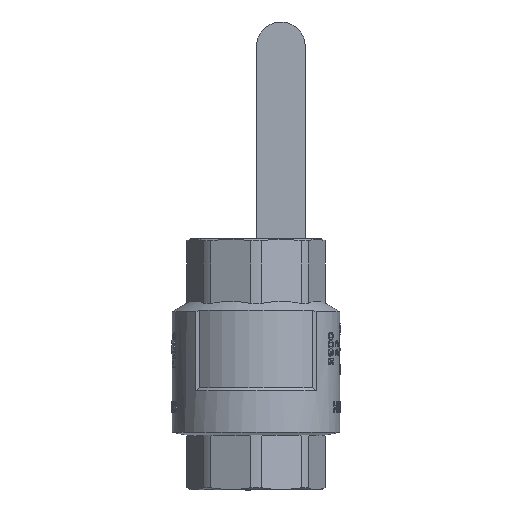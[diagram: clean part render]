
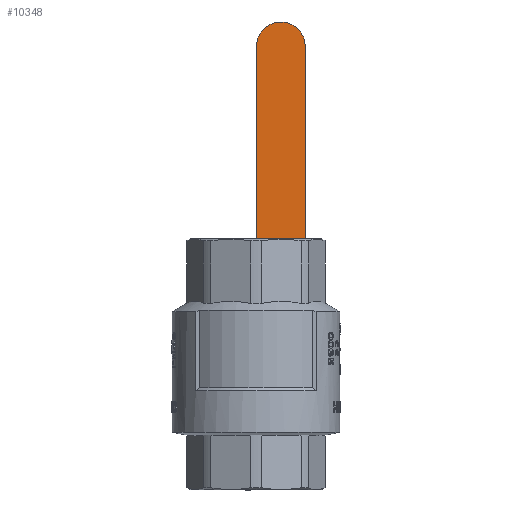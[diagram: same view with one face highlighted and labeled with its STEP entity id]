
A CAD part, front view. The second image highlights one B-rep face of the part: STEP entity #10348.
In plain terms, the highlighted planar face has unit normal (0, -1, 0).
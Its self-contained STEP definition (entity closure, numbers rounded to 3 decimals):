
#340=PLANE('',#10970);
#773=CIRCLE('',#10951,12.5);
#1339=FACE_OUTER_BOUND('',#1948,.T.);
#1948=EDGE_LOOP('',(#9211,#9212,#9213,#9214));
#3142=LINE('',#28699,#3825);
#3152=LINE('',#28728,#3835);
#3155=LINE('',#28741,#3838);
#3825=VECTOR('',#12799,10.);
#3835=VECTOR('',#12827,10.);
#3838=VECTOR('',#12842,10.);
#4818=VERTEX_POINT('',#28682);
#4819=VERTEX_POINT('',#28683);
#4825=VERTEX_POINT('',#28697);
#4835=VERTEX_POINT('',#28727);
#6299=EDGE_CURVE('',#4818,#4819,#773,.T.);
#6307=EDGE_CURVE('',#4819,#4825,#3142,.T.);
#6322=EDGE_CURVE('',#4835,#4818,#3152,.T.);
#6329=EDGE_CURVE('',#4835,#4825,#3155,.T.);
#9211=ORIENTED_EDGE('',*,*,#6322,.T.);
#9212=ORIENTED_EDGE('',*,*,#6299,.T.);
#9213=ORIENTED_EDGE('',*,*,#6307,.T.);
#9214=ORIENTED_EDGE('',*,*,#6329,.F.);
#10348=ADVANCED_FACE('',(#1339),#340,.T.);
#10951=AXIS2_PLACEMENT_3D('',#28684,#12785,#12786);
#10970=AXIS2_PLACEMENT_3D('',#28740,#12840,#12841);
#12785=DIRECTION('center_axis',(0.,-1.,0.));
#12786=DIRECTION('ref_axis',(1.,0.,0.));
#12799=DIRECTION('',(0.,0.,-1.));
#12827=DIRECTION('',(0.,0.,1.));
#12840=DIRECTION('center_axis',(0.,-1.,0.));
#12841=DIRECTION('ref_axis',(0.,0.,-1.));
#12842=DIRECTION('',(-1.,0.,0.));
#28682=CARTESIAN_POINT('',(25.229,85.691,162.261));
#28683=CARTESIAN_POINT('',(0.229,85.691,162.261));
#28684=CARTESIAN_POINT('Origin',(12.729,85.691,162.261));
#28697=CARTESIAN_POINT('',(0.229,85.691,49.821));
#28699=CARTESIAN_POINT('',(0.229,85.691,191.379));
#28727=CARTESIAN_POINT('',(25.229,85.691,49.821));
#28728=CARTESIAN_POINT('',(25.229,85.691,120.12));
#28740=CARTESIAN_POINT('Origin',(0.,85.691,220.498));
#28741=CARTESIAN_POINT('',(0.,85.691,49.821));
